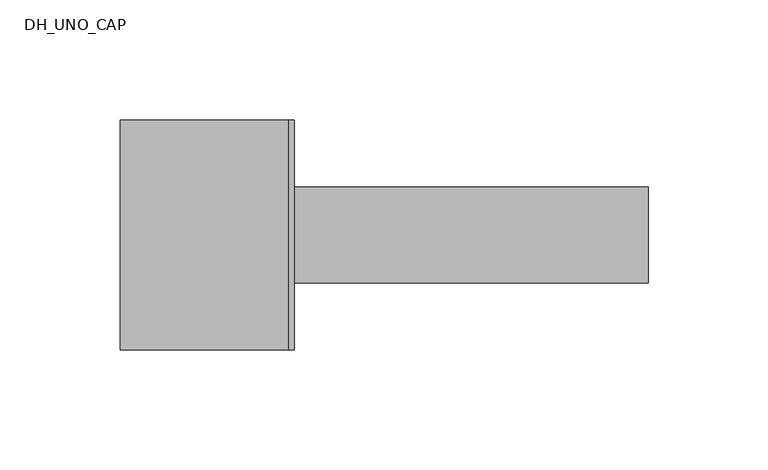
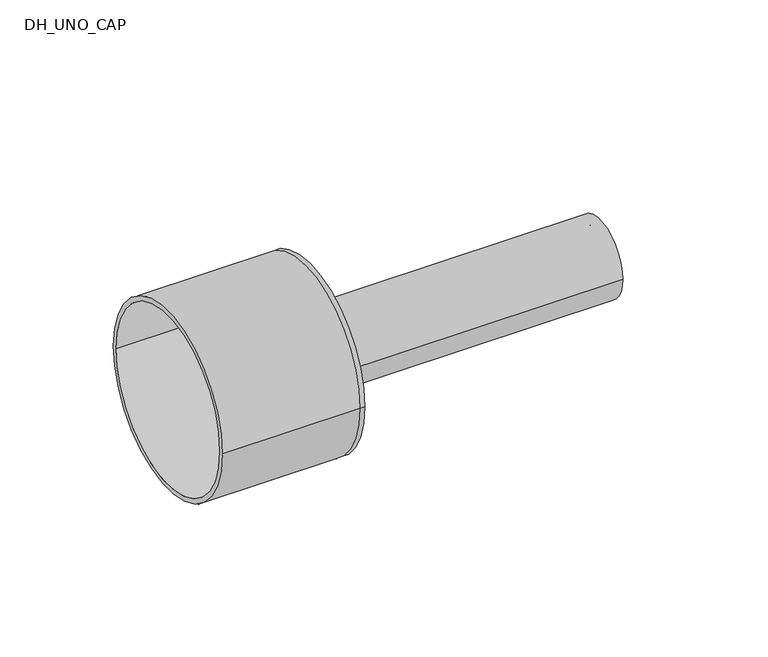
"""IFC4 building model written with IfcOpenShell, lengths in millimetres: pipe fitting geometry, DH_UNO_CAP : RAUTHERMEX UNO 7.4 DW - Solid Cap."""

from ifc_helpers import new_model, si_unit, point, frame, origin, origin_2d, place, context, project, spatial, polyline, circle_curve, trimmed, segment, composite_curve, outline, extrude, source, transform, mapped, element, save
from ifc_brep_helpers import plane_surface, cylinder_surface, revolved_surface, advanced_brep


def dh_uno_cap_a0cf77d5(model_context):
    return source(origin(), model_context, "Body", "SolidModel", [
        extrude(outline(composite_curve([segment(trimmed(circle_curve(origin_2d(), 20.0), [point((-20.0, 0.0))], [point((20.0, 0.0))], False, "CARTESIAN"), True, "CONTINUOUS"), segment(trimmed(circle_curve(origin_2d(), 20.0), [point((20.0, 0.0))], [point((-20.0, 0.0))], False, "CARTESIAN"), True, "CONTINUOUS")], self_intersect=False), holes=[composite_curve([segment(trimmed(circle_curve(origin_2d(), 14.5), [point((-14.5, 0.0))], [point((14.5, 0.0))], True, "CARTESIAN"), True, "CONTINUOUS"), segment(trimmed(circle_curve(origin_2d(), 14.5), [point((14.5, 0.0))], [point((-14.5, 0.0))], True, "CARTESIAN"), True, "CONTINUOUS")], self_intersect=False)]), frame((0.0, 0.0, 0.0), z_axis=(1.0, 0.0, 0.0), x_axis=(0.0, 1.0, 0.0)), (0.0, 0.0, 1.0), 150.0),
        advanced_brep(
        [(-70.0, -48.0, 0.0), (-70.0, 48.0, 0.0), (-70.0, -45.5, 0.0), (-70.0, 45.5, 0.0), (0.0, -45.5, 0.0), (0.0, 45.5, 0.0), (0.0, -48.0, 0.0), (0.0, 48.0, 0.0), (0.0, 20.0, 0.0), (0.0, -20.0, 0.0), (2.5, -48.0, 0.0), (2.5, 48.0, 0.0), (2.5, -20.0, 0.0), (2.5, 20.0, 0.0)],
        [
            (0, 1, circle_curve(frame((-70.0, 0.0, 0.0), z_axis=(-1.0, 0.0, 0.0), x_axis=(0.0, 1.0, 0.0)), 48.0)),
            (1, 0, circle_curve(frame((-70.0, 0.0, 0.0), z_axis=(-1.0, 0.0, 0.0), x_axis=(0.0, 1.0, 0.0)), 48.0)),
            (2, 3, circle_curve(frame((-70.0, 0.0, 0.0), z_axis=(1.0, 0.0, 0.0), x_axis=(0.0, 1.0, 0.0)), 45.5)),
            (3, 2, circle_curve(frame((-70.0, 0.0, 0.0), z_axis=(1.0, 0.0, 0.0), x_axis=(0.0, 1.0, 0.0)), 45.5)),
            (2, 4),
            (4, 5, circle_curve(frame((0.0, 0.0, 0.0), z_axis=(1.0, 0.0, 0.0), x_axis=(0.0, 1.0, 0.0)), 45.5)),
            (5, 3),
            (5, 4, circle_curve(frame((0.0, 0.0, 0.0), z_axis=(1.0, 0.0, 0.0), x_axis=(0.0, 1.0, 0.0)), 45.5)),
            (0, 6),
            (6, 7, circle_curve(frame((0.0, 0.0, 0.0), z_axis=(-1.0, 0.0, 0.0), x_axis=(0.0, 1.0, 0.0)), 48.0)),
            (7, 1),
            (7, 6, circle_curve(frame((0.0, 0.0, 0.0), z_axis=(-1.0, 0.0, 0.0), x_axis=(0.0, 1.0, 0.0)), 48.0)),
            (8, 9, circle_curve(frame((0.0, 0.0, 0.0), z_axis=(1.0, 0.0, 0.0), x_axis=(0.0, 1.0, 0.0)), 20.0)),
            (9, 8, circle_curve(frame((0.0, 0.0, 0.0), z_axis=(1.0, 0.0, 0.0), x_axis=(0.0, 1.0, 0.0)), 20.0)),
            (10, 11, circle_curve(frame((2.5, 0.0, 0.0), z_axis=(1.0, 0.0, 0.0), x_axis=(0.0, 1.0, 0.0)), 48.0)),
            (11, 10, circle_curve(frame((2.5, 0.0, 0.0), z_axis=(1.0, 0.0, 0.0), x_axis=(0.0, 1.0, 0.0)), 48.0)),
            (12, 13, circle_curve(frame((2.5, 0.0, 0.0), z_axis=(-1.0, 0.0, 0.0), x_axis=(0.0, 1.0, 0.0)), 20.0)),
            (13, 12, circle_curve(frame((2.5, 0.0, 0.0), z_axis=(-1.0, 0.0, 0.0), x_axis=(0.0, 1.0, 0.0)), 20.0)),
            (11, 7),
            (6, 10),
            (8, 13),
            (12, 9),
        ],
        [
            plane_surface(frame((-70.0, 0.0, 0.0), z_axis=(-1.0, 0.0, 0.0), x_axis=(0.0, 0.0, 1.0))),
            revolved_surface(polyline([(0.0, 45.5, 0.0), (-70.0, 45.5, 0.0)]), (-70.0, 0.0, 0.0), (1.0, 0.0, 0.0)),
            cylinder_surface(frame((-70.0, 0.0, 0.0), z_axis=(-1.0, 0.0, 0.0), x_axis=(0.0, 1.0, 0.0)), 48.0),
            plane_surface(frame((0.0, 0.0, 0.0), z_axis=(-1.0, 0.0, 0.0), x_axis=(0.0, 0.0, 1.0))),
            plane_surface(frame((2.5, 0.0, 0.0), z_axis=(1.0, 0.0, 0.0), x_axis=(0.0, 0.0, 1.0))),
            cylinder_surface(frame((0.0, 0.0, 0.0), z_axis=(-1.0, 0.0, 0.0), x_axis=(0.0, 1.0, 0.0)), 48.0),
            revolved_surface(polyline([(0.0, 20.0, 0.0), (2.5, 20.0, 0.0)]), (0.0, 0.0, 0.0), (-1.0, 0.0, 0.0)),
        ],
        [
            (0, [[1, 2], [3, 4]]),
            (1, [[-3, 5, 6, 7]]),
            (1, [[-4, -7, 8, -5]]),
            (2, [[-1, 9, 10, 11]]),
            (2, [[-2, -11, 12, -9]]),
            (3, [[-6, -8], [13, 14]]),
            (4, [[15, 16], [17, 18]]),
            (5, [[-16, 19, -10, 20]]),
            (5, [[-15, -20, -12, -19]]),
            (6, [[21, -17, 22, -13]]),
            (6, [[-21, -14, -22, -18]]),
        ],
    ),
    ])


if __name__ == "__main__":
    model = new_model("IFC4")
    model_context = context("Model", 3, world=origin())
    ifc_project = project(units=[si_unit("LENGTHUNIT", "METRE", prefix="MILLI")], contexts=[model_context])
    site = spatial("IfcSite", under=ifc_project)
    building = spatial("IfcBuilding", under=site)
    placement = place(None, origin())
    dh_uno_cap_shape = dh_uno_cap_a0cf77d5(model_context)
    element("IfcPipeFitting", 1, ObjectType="DH_UNO_CAP : RAUTHERMEX UNO 7.4 DW - Solid Cap", at=placement, inside=building, context=model_context, shape_type="MappedRepresentation", body=[
        mapped(dh_uno_cap_shape, transform((0.0, 0.0, 0.0), x_axis=(1.0, 0.0, 0.0), y_axis=(0.0, 1.0, 0.0), z_axis=(0.0, 0.0, 1.0))),
    ])
    save(model, "model.ifc")
